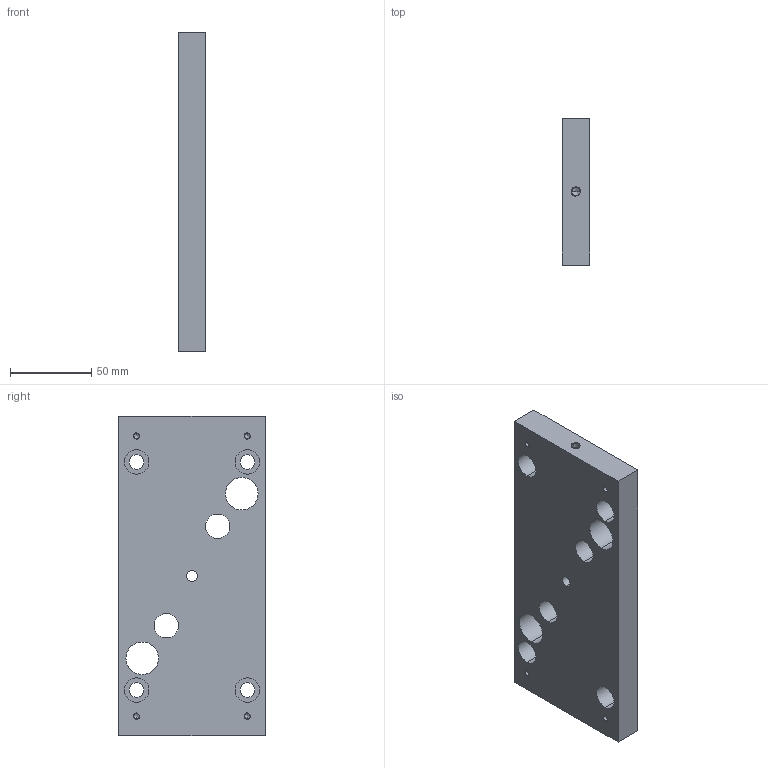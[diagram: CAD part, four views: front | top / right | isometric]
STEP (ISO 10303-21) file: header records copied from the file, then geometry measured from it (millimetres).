
FILE_DESCRIPTION (( 'STEP AP203' ), '1' );
FILE_NAME ('009 Contre Plaque porte Ejection.STEP', '2021-10-27T18:21:13', ( '' ), ( '' ), 'SwSTEP 2.0', 'SolidWorks 2019', '' );
FILE_SCHEMA (( 'CONFIG_CONTROL_DESIGN' ));
Length unit declared in the file: millimetre
Products named in the file (1): 009 Contre Plaque porte Ejection
Bounding box: 17 x 90 x 196 mm (x, y, z)
Volume: 272484.5 mm3; surface area: 51016.6 mm2
Topology: 1 solids, 1 shells, 81 faces, 202 edges, 127 vertices
Faces by surface type: cylinder 46, plane 25, bspline 10
Entity records: 2519 total; most frequent: CARTESIAN_POINT 471, DIRECTION 430, ORIENTED_EDGE 384, EDGE_CURVE 192, AXIS2_PLACEMENT_3D 166, VERTEX_POINT 127, EDGE_LOOP 113, VECTOR 98
